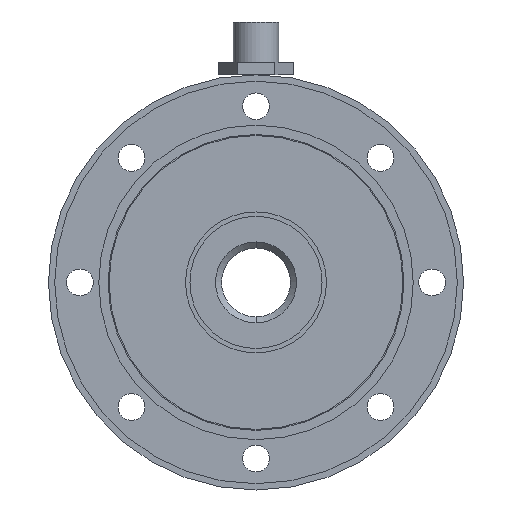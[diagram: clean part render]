
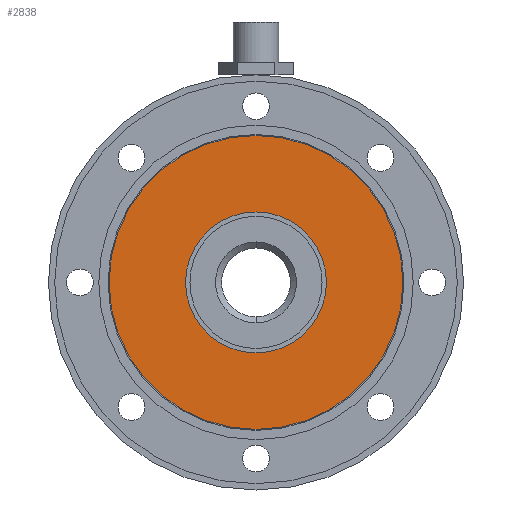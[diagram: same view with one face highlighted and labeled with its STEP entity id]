
A CAD part, front view. The second image highlights one B-rep face of the part: STEP entity #2838.
In plain terms, the highlighted planar face has unit normal (0, -1, 0).
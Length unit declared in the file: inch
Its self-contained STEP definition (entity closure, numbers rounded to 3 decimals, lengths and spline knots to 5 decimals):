
#131 = CARTESIAN_POINT ( 'NONE',  ( 0., 0.015, 0. ) ) ;
#134 = DIRECTION ( 'NONE',  ( 0., 1., 0. ) ) ;
#136 = DIRECTION ( 'NONE',  ( 0., 0., 1. ) ) ;
#167 = EDGE_LOOP ( 'NONE', ( #2262, #2192 ) ) ;
#383 = DIRECTION ( 'NONE',  ( 0., 1., 0. ) ) ;
#396 = DIRECTION ( 'NONE',  ( 0., 0., 1. ) ) ;
#414 = CARTESIAN_POINT ( 'NONE',  ( 0., 0.015, 0. ) ) ;
#575 = DIRECTION ( 'NONE',  ( 0., 1., 0. ) ) ;
#577 = DIRECTION ( 'NONE',  ( 0., 0., 1. ) ) ;
#582 = CARTESIAN_POINT ( 'NONE',  ( 0., 0.015, 0. ) ) ;
#701 = VERTEX_POINT ( 'NONE', #842 ) ;
#708 = VERTEX_POINT ( 'NONE', #859 ) ;
#748 = VERTEX_POINT ( 'NONE', #871 ) ;
#757 = VERTEX_POINT ( 'NONE', #850 ) ;
#842 = CARTESIAN_POINT ( 'NONE',  ( 0., 0.015, 1.46 ) ) ;
#850 = CARTESIAN_POINT ( 'NONE',  ( 0., 0.015, -0.7 ) ) ;
#859 = CARTESIAN_POINT ( 'NONE',  ( 0., 0.015, -1.46 ) ) ;
#871 = CARTESIAN_POINT ( 'NONE',  ( 0., 0.015, 0.7 ) ) ;
#1072 = EDGE_LOOP ( 'NONE', ( #2172, #2258 ) ) ;
#1366 = CIRCLE ( 'NONE', #1993, 0.7 ) ;
#1441 = CIRCLE ( 'NONE', #2053, 1.46 ) ;
#1482 = CIRCLE ( 'NONE', #2072, 0.7 ) ;
#1498 = CIRCLE ( 'NONE', #2030, 1.46 ) ;
#1584 = FACE_OUTER_BOUND ( 'NONE', #1072, .T. ) ;
#1606 = FACE_BOUND ( 'NONE', #167, .T. ) ;
#1805 = EDGE_CURVE ( 'NONE', #748, #757, #1366, .T. ) ;
#1877 = EDGE_CURVE ( 'NONE', #708, #701, #1441, .T. ) ;
#1915 = EDGE_CURVE ( 'NONE', #757, #748, #1482, .T. ) ;
#1931 = EDGE_CURVE ( 'NONE', #701, #708, #1498, .T. ) ;
#1993 = AXIS2_PLACEMENT_3D ( 'NONE', #414, #383, #396 ) ;
#2030 = AXIS2_PLACEMENT_3D ( 'NONE', #582, #575, #577 ) ;
#2053 = AXIS2_PLACEMENT_3D ( 'NONE', #131, #134, #136 ) ;
#2072 = AXIS2_PLACEMENT_3D ( 'NONE', #2677, #2671, #2672 ) ;
#2118 = AXIS2_PLACEMENT_3D ( 'NONE', #2526, #2528, #2532 ) ;
#2172 = ORIENTED_EDGE ( 'NONE', *, *, #1931, .F. ) ;
#2192 = ORIENTED_EDGE ( 'NONE', *, *, #1915, .T. ) ;
#2258 = ORIENTED_EDGE ( 'NONE', *, *, #1877, .F. ) ;
#2262 = ORIENTED_EDGE ( 'NONE', *, *, #1805, .T. ) ;
#2520 = PLANE ( 'NONE',  #2118 ) ;
#2526 = CARTESIAN_POINT ( 'NONE',  ( 0., 0.015, 0. ) ) ;
#2528 = DIRECTION ( 'NONE',  ( 0., 1., 0. ) ) ;
#2532 = DIRECTION ( 'NONE',  ( 0., 0., 1. ) ) ;
#2671 = DIRECTION ( 'NONE',  ( 0., 1., 0. ) ) ;
#2672 = DIRECTION ( 'NONE',  ( 0., 0., 1. ) ) ;
#2677 = CARTESIAN_POINT ( 'NONE',  ( 0., 0.015, 0. ) ) ;
#2838 = ADVANCED_FACE ( 'NONE', ( #1606, #1584 ), #2520, .F. ) ;
